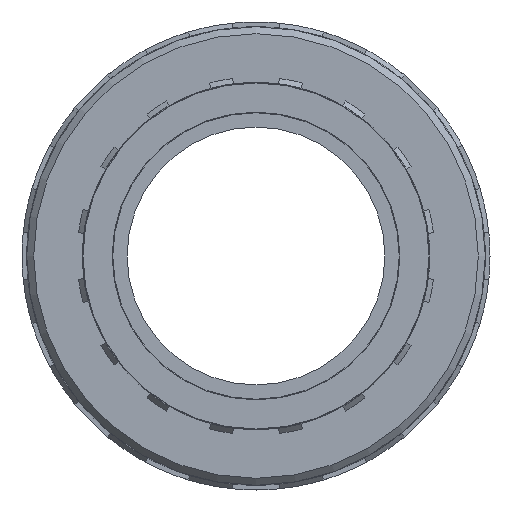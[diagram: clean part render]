
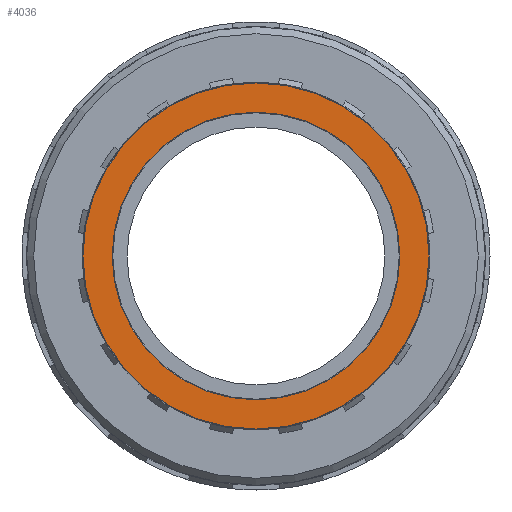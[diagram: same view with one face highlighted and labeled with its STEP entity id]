
A CAD part, left-side view. The second image highlights one B-rep face of the part: STEP entity #4036.
In plain terms, the highlighted planar face has unit normal (-1, 0, 0).
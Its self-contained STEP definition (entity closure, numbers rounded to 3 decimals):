
#29=FACE_BOUND('',#754,.T.);
#270=CIRCLE('',#4431,36.273);
#272=CIRCLE('',#4434,43.627);
#533=FACE_OUTER_BOUND('',#753,.T.);
#753=EDGE_LOOP('',(#3499));
#754=EDGE_LOOP('',(#3500));
#1934=VERTEX_POINT('',#6847);
#1936=VERTEX_POINT('',#6852);
#2508=EDGE_CURVE('',#1934,#1934,#270,.T.);
#2510=EDGE_CURVE('',#1936,#1936,#272,.T.);
#3499=ORIENTED_EDGE('',*,*,#2510,.F.);
#3500=ORIENTED_EDGE('',*,*,#2508,.F.);
#3831=PLANE('',#4433);
#4036=ADVANCED_FACE('',(#533,#29),#3831,.T.);
#4431=AXIS2_PLACEMENT_3D('',#6848,#5614,#5615);
#4433=AXIS2_PLACEMENT_3D('',#6851,#5618,#5619);
#4434=AXIS2_PLACEMENT_3D('',#6853,#5620,#5621);
#5614=DIRECTION('center_axis',(-1.,0.,0.));
#5615=DIRECTION('ref_axis',(0.,1.,0.));
#5618=DIRECTION('center_axis',(-1.,0.,0.));
#5619=DIRECTION('ref_axis',(0.,0.,1.));
#5620=DIRECTION('center_axis',(1.,0.,0.));
#5621=DIRECTION('ref_axis',(0.,1.,0.));
#6847=CARTESIAN_POINT('',(-55.,-36.273,0.));
#6848=CARTESIAN_POINT('Origin',(-55.,0.,0.));
#6851=CARTESIAN_POINT('Origin',(-55.,-36.113,0.));
#6852=CARTESIAN_POINT('',(-55.,-43.627,0.));
#6853=CARTESIAN_POINT('Origin',(-55.,0.,0.));
